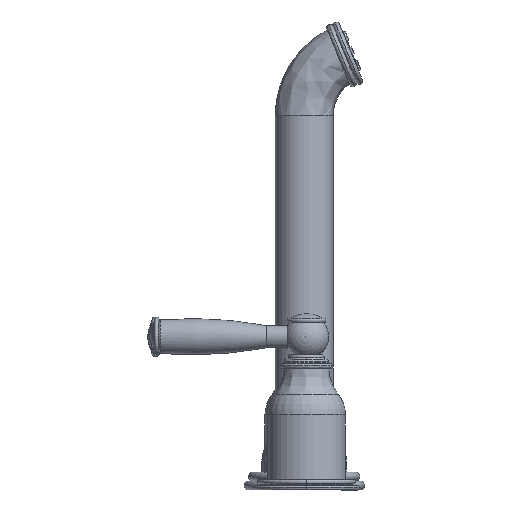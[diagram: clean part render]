
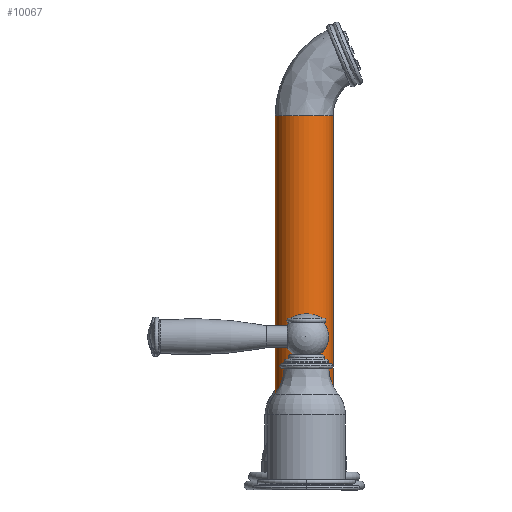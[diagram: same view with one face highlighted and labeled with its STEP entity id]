
A CAD part, left-side view. The second image highlights one B-rep face of the part: STEP entity #10067.
In plain terms, the highlighted cylindrical face has radius 13 mm (diameter 26 mm), a partial arc.
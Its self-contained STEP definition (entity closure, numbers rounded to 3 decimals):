
#5160 = CARTESIAN_POINT ( 'NONE',  ( 6.629, -10.853, 150.37 ) ) ;
#6686 = AXIS2_PLACEMENT_3D ( 'NONE', #5160, #135665, #29263 ) ;
#10067 = ADVANCED_FACE ( 'NONE', ( #92117 ), #115428, .T. ) ;
#16230 = DIRECTION ( 'NONE',  ( 0., 1., 0. ) ) ;
#19009 = CIRCLE ( 'NONE', #6686, 13. ) ;
#23934 = CIRCLE ( 'NONE', #128076, 13. ) ;
#25403 = ORIENTED_EDGE ( 'NONE', *, *, #151277, .T. ) ;
#27122 = EDGE_CURVE ( 'NONE', #66977, #90801, #33373, .T. ) ;
#29263 = DIRECTION ( 'NONE',  ( 0., 1., 0. ) ) ;
#29851 = CARTESIAN_POINT ( 'NONE',  ( 6.629, -23.853, 283.37 ) ) ;
#33373 = LINE ( 'NONE', #128123, #131385 ) ;
#39070 = ORIENTED_EDGE ( 'NONE', *, *, #27122, .T. ) ;
#40859 = CARTESIAN_POINT ( 'NONE',  ( 6.629, 2.147, 283.37 ) ) ;
#46824 = ORIENTED_EDGE ( 'NONE', *, *, #68967, .F. ) ;
#49276 = CARTESIAN_POINT ( 'NONE',  ( 6.629, 2.147, 150.37 ) ) ;
#58392 = EDGE_LOOP ( 'NONE', ( #46824, #25403, #39070, #122837 ) ) ;
#66977 = VERTEX_POINT ( 'NONE', #40859 ) ;
#68795 = CARTESIAN_POINT ( 'NONE',  ( 6.629, -10.853, 283.37 ) ) ;
#68967 = EDGE_CURVE ( 'NONE', #121594, #117740, #80596, .T. ) ;
#69241 = EDGE_CURVE ( 'NONE', #90801, #117740, #19009, .T. ) ;
#70308 = DIRECTION ( 'NONE',  ( 0., 0., -1. ) ) ;
#73704 = DIRECTION ( 'NONE',  ( 0., 0., -1. ) ) ;
#78459 = DIRECTION ( 'NONE',  ( 0., 0., -1. ) ) ;
#80596 = LINE ( 'NONE', #92259, #123236 ) ;
#90801 = VERTEX_POINT ( 'NONE', #49276 ) ;
#92117 = FACE_OUTER_BOUND ( 'NONE', #58392, .T. ) ;
#92259 = CARTESIAN_POINT ( 'NONE',  ( 6.629, -23.853, 283.37 ) ) ;
#99376 = CARTESIAN_POINT ( 'NONE',  ( 6.629, -10.853, 283.37 ) ) ;
#106870 = CARTESIAN_POINT ( 'NONE',  ( 6.629, -23.853, 150.37 ) ) ;
#115428 = CYLINDRICAL_SURFACE ( 'NONE', #118419, 13. ) ;
#117740 = VERTEX_POINT ( 'NONE', #106870 ) ;
#118419 = AXIS2_PLACEMENT_3D ( 'NONE', #68795, #70308, #141783 ) ;
#121594 = VERTEX_POINT ( 'NONE', #29851 ) ;
#122837 = ORIENTED_EDGE ( 'NONE', *, *, #69241, .T. ) ;
#123236 = VECTOR ( 'NONE', #124383, 1000. ) ;
#124383 = DIRECTION ( 'NONE',  ( 0., 0., -1. ) ) ;
#128076 = AXIS2_PLACEMENT_3D ( 'NONE', #99376, #73704, #16230 ) ;
#128123 = CARTESIAN_POINT ( 'NONE',  ( 6.629, 2.147, 283.37 ) ) ;
#131385 = VECTOR ( 'NONE', #78459, 1000. ) ;
#135665 = DIRECTION ( 'NONE',  ( 0., 0., 1. ) ) ;
#141783 = DIRECTION ( 'NONE',  ( 0., 1., 0. ) ) ;
#151277 = EDGE_CURVE ( 'NONE', #121594, #66977, #23934, .T. ) ;
